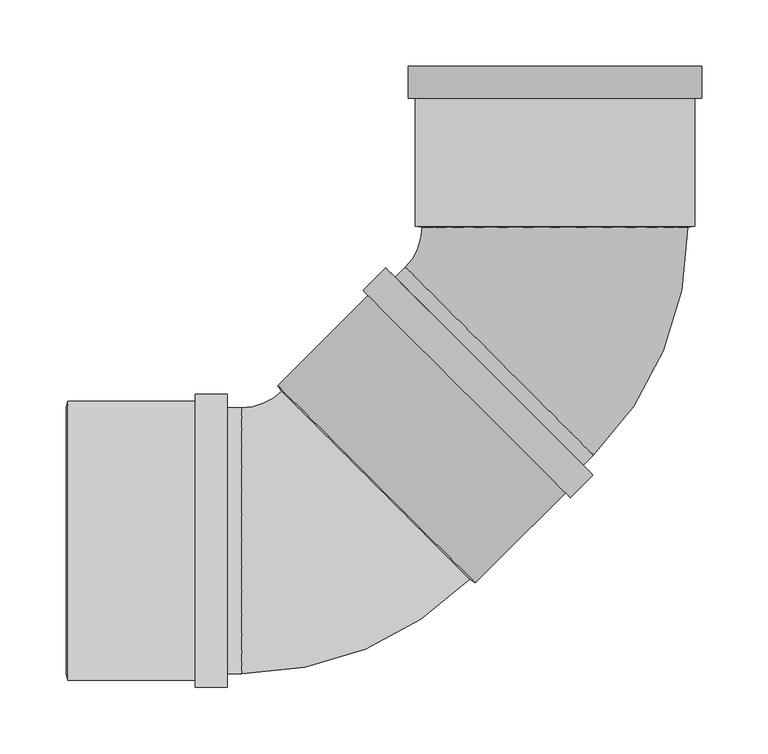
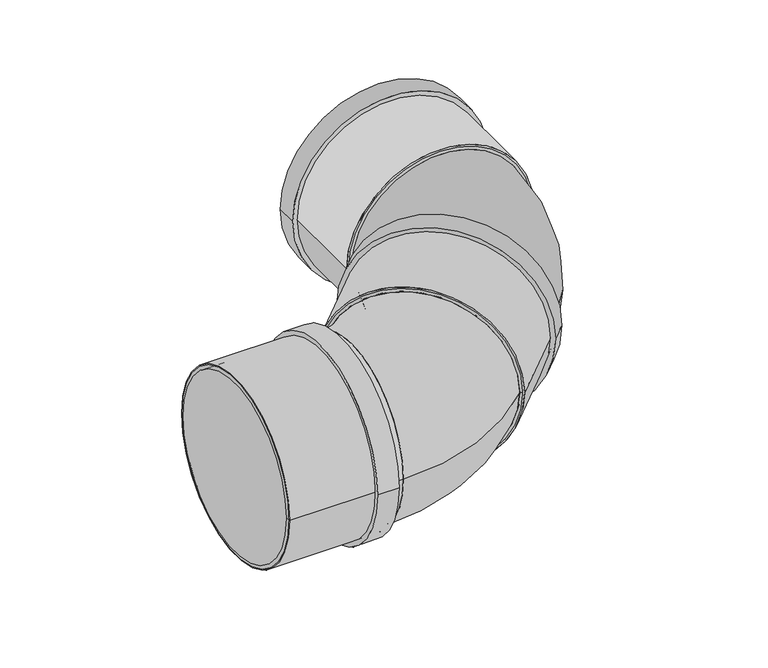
"""IFC4 building model written with IfcOpenShell, lengths in millimetres: pipe fitting geometry, Superdrain SK Bend_Composite 2x45 : Superdrain SK Bend_Composite 2x45."""

from ifc_helpers import new_model, si_unit, point, frame, origin, origin_2d, place, context, project, spatial, polyline, circle_curve, ellipse_curve, trimmed, segment, composite_curve, outline, extrude, source, transform, mapped, element, save
from ifc_brep_helpers import plane_surface, revolved_surface, advanced_brep


def pipe_fitting_3d344751(model_context):
    return source(origin(), model_context, "Body", "SolidModel", [
        advanced_brep(
        [(100.0, 235.6352739, 0.0), (-100.0, 235.6352739, 0.0), (28.991378, 64.2052957, 0.0), (-112.4299782, 205.626652, 0.0)],
        [
            (0, 1, circle_curve(frame((0.0, 235.6352739, 0.0), z_axis=(0.0, 1.0, 0.0), x_axis=(-1.0, 0.0, 0.0)), 100.0)),
            (1, 0, circle_curve(frame((0.0, 235.6352739, 0.0), z_axis=(0.0, 0.9999999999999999, 0.0), x_axis=(-0.9999999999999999, 0.0, 0.0)), 100.0)),
            (2, 3, circle_curve(frame((-41.7193001, 134.9159739, 0.0), z_axis=(-0.7071067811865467, -0.7071067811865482, 0.0), x_axis=(-0.7071067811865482, 0.7071067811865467, 0.0)), 100.0)),
            (3, 2, circle_curve(frame((-41.7193001, 134.9159739, 0.0), z_axis=(-0.7071067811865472, -0.7071067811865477, 0.0), x_axis=(-0.7071067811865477, 0.7071067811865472, 0.0)), 100.0)),
            (3, 1, circle_curve(frame((-142.4386002, 235.6352739, 0.0), z_axis=(0.0, 0.0, 1.0), x_axis=(0.7071067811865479, 0.707106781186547, 0.0)), 42.4386002)),
            (0, 2, circle_curve(frame((-142.4386002, 235.6352739, 0.0), z_axis=(0.0, 0.0, -1.0), x_axis=(0.7071067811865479, 0.707106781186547, 0.0)), 242.4386002)),
        ],
        [
            plane_surface(frame((0.0, 235.6352739, 0.0), z_axis=(0.0, 1.0, 0.0), x_axis=(0.0, 0.0, -1.0))),
            plane_surface(frame((-41.7193001, 134.9159739, 0.0), z_axis=(-0.7071067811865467, -0.7071067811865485, 0.0), x_axis=(0.0, 0.0, -1.0))),
            revolved_surface(trimmed(ellipse_curve(frame((-41.7193001, 336.354574, 0.0), z_axis=(0.707106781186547, -0.7071067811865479, 0.0), x_axis=(-0.7071067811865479, -0.707106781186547, 0.0)), 100.0, 100.0), [point((-112.4299782, 265.6438959, 0.0))], [point((28.991378, 407.0652521, 0.0))], True, "CARTESIAN"), (-142.4386002, 235.6352739, 0.0), (0.0, 0.0, 1.0)),
            revolved_surface(trimmed(ellipse_curve(frame((-41.7193001, 336.354574, 0.0), z_axis=(0.707106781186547, -0.7071067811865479, 0.0), x_axis=(-0.7071067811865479, -0.707106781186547, 0.0)), 100.0, 100.0), [point((28.991378, 407.0652521, 0.0))], [point((-112.4299782, 265.6438959, 0.0))], True, "CARTESIAN"), (-142.4386002, 235.6352739, 0.0), (0.0, 0.0, 1.0)),
        ],
        [
            (0, [[1, 2]]),
            (1, [[3, 4]]),
            (2, [[-4, 5, -1, 6]]),
            (3, [[-3, -6, -2, -5]]),
        ],
    ),
        extrude(outline(composite_curve([segment(trimmed(circle_curve(origin_2d(), 105.0), [point((0.0, 105.0))], [point((0.0, -105.0))], False, "CARTESIAN"), True, "CONTINUOUS"), segment(trimmed(circle_curve(origin_2d(), 105.0), [point((0.0, -105.0))], [point((0.0, 105.0))], False, "CARTESIAN"), True, "CONTINUOUS")], self_intersect=False), holes=[composite_curve([segment(trimmed(circle_curve(origin_2d(), 100.0), [point((0.0, 100.0))], [point((0.0, -100.0))], True, "CARTESIAN"), True, "CONTINUOUS"), segment(trimmed(circle_curve(origin_2d(), 100.0), [point((0.0, -100.0))], [point((0.0, 100.0))], True, "CARTESIAN"), True, "CONTINUOUS")], self_intersect=False)]), frame((0.0, 236.6352739, 0.0), z_axis=(0.0, 1.0, 0.0), x_axis=(0.0, 0.0, 1.0)), (0.0, 0.0, 1.0), 120.0),
        extrude(outline(composite_curve([segment(trimmed(circle_curve(origin_2d(), 110.25), [point((0.0, -110.25))], [point((0.0, 110.25))], False, "CARTESIAN"), True, "CONTINUOUS"), segment(trimmed(circle_curve(origin_2d(), 110.25), [point((0.0, 110.25))], [point((0.0, -110.25))], False, "CARTESIAN"), True, "CONTINUOUS")], self_intersect=False), holes=[composite_curve([segment(trimmed(circle_curve(origin_2d(), 100.0), [point((0.0, -100.0))], [point((0.0, 100.0))], True, "CARTESIAN"), True, "CONTINUOUS"), segment(trimmed(circle_curve(origin_2d(), 100.0), [point((0.0, 100.0))], [point((0.0, -100.0))], True, "CARTESIAN"), True, "CONTINUOUS")], self_intersect=False)]), frame((0.0, 332.6352739, 0.0), z_axis=(0.0, 1.0, 0.0), x_axis=(0.0, 0.0, 1.0)), (0.0, 0.0, 1.0), 24.0),
        advanced_brep(
        [(105.0, 236.6352739, 0.0), (-105.0, 236.6352739, 0.0), (100.0, 235.6352739, 0.0), (-100.0, 235.6352739, 0.0)],
        [
            (0, 1, circle_curve(frame((0.0, 236.6352739, 0.0), z_axis=(0.0, 1.0, 0.0), x_axis=(0.9999999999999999, 0.0, 0.0)), 105.0)),
            (1, 0, circle_curve(frame((0.0, 236.6352739, 0.0), z_axis=(0.0, 1.0, 0.0), x_axis=(-0.9999999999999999, 0.0, 0.0)), 105.0)),
            (2, 3, circle_curve(frame((0.0, 235.6352739, 0.0), z_axis=(0.0, -1.0, 0.0), x_axis=(-0.9999999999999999, 0.0, 0.0)), 100.0)),
            (3, 2, circle_curve(frame((0.0, 235.6352739, 0.0), z_axis=(0.0, -1.0, 0.0), x_axis=(0.9999999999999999, 0.0, 0.0)), 100.0)),
            (3, 1),
            (0, 2),
        ],
        [
            plane_surface(frame((0.0, 236.6352739, 0.0), z_axis=(0.0, 1.0, 0.0), x_axis=(0.0, 0.0, -1.0))),
            plane_surface(frame((0.0, 235.6352739, 0.0), z_axis=(0.0, -1.0, 0.0), x_axis=(0.0, 0.0, -1.0))),
            revolved_surface(polyline([(-100.0, 235.6352739, 0.0), (-105.0, 236.6352739, 0.0)]), (0.0, 215.6352739, 0.0), (0.0, 0.9999999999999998, 0.0)),
            revolved_surface(polyline([(100.0, 235.6352739, 0.0), (105.0, 236.6352739, 0.0)]), (0.0, 215.6352739, 0.0), (0.0, 0.9999999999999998, 0.0)),
        ],
        [
            (0, [[1, 2]]),
            (1, [[3, 4]]),
            (2, [[-4, 5, -1, 6]]),
            (3, [[-3, -6, -2, -5]]),
        ],
    ),
        extrude(outline(composite_curve([segment(trimmed(circle_curve(origin_2d(), 100.0), [point((0.0, -100.0))], [point((0.0, 100.0))], False, "CARTESIAN"), True, "CONTINUOUS"), segment(trimmed(circle_curve(origin_2d(), 100.0), [point((0.0, 100.0))], [point((0.0, -100.0))], False, "CARTESIAN"), True, "CONTINUOUS")], self_intersect=False)), frame((-134.2088671, 42.4264069, 0.0), z_axis=(0.707106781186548, 0.7071067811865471, 0.0), x_axis=(0.0, 0.0, -1.0)), (0.0, 0.0, 1.0), 130.8),
        extrude(outline(composite_curve([segment(trimmed(circle_curve(origin_2d(), 105.0), [point((105.0, 0.0))], [point((-105.0, 0.0))], False, "CARTESIAN"), True, "CONTINUOUS"), segment(trimmed(circle_curve(origin_2d(), 105.0), [point((-105.0, 0.0))], [point((105.0, 0.0))], False, "CARTESIAN"), True, "CONTINUOUS")], self_intersect=False), holes=[composite_curve([segment(trimmed(circle_curve(origin_2d(), 100.0), [point((100.0, 0.0))], [point((-100.0, 0.0))], True, "CARTESIAN"), True, "CONTINUOUS"), segment(trimmed(circle_curve(origin_2d(), 100.0), [point((-100.0, 0.0))], [point((100.0, 0.0))], True, "CARTESIAN"), True, "CONTINUOUS")], self_intersect=False)]), frame((-366.4352739, 0.0, 0.0), z_axis=(1.0, 0.0, 0.0), x_axis=(0.0, 1.0, 0.0)), (0.0, 0.0, 1.0), 120.0),
        extrude(outline(composite_curve([segment(trimmed(circle_curve(origin_2d(), 110.25), [point((110.25, 0.0))], [point((-110.25, 0.0))], False, "CARTESIAN"), True, "CONTINUOUS"), segment(trimmed(circle_curve(origin_2d(), 110.25), [point((-110.25, 0.0))], [point((110.25, 0.0))], False, "CARTESIAN"), True, "CONTINUOUS")], self_intersect=False), holes=[composite_curve([segment(trimmed(circle_curve(origin_2d(), 100.0), [point((100.0, 0.0))], [point((-100.0, 0.0))], True, "CARTESIAN"), True, "CONTINUOUS"), segment(trimmed(circle_curve(origin_2d(), 100.0), [point((-100.0, 0.0))], [point((100.0, 0.0))], True, "CARTESIAN"), True, "CONTINUOUS")], self_intersect=False)]), frame((-270.4352739, 0.0, 0.0), z_axis=(1.0, 0.0, 0.0), x_axis=(0.0, 1.0, 0.0)), (0.0, 0.0, 1.0), 24.0),
        advanced_brep(
        [(-367.4352739, 100.0, 0.0), (-367.4352739, -100.0, 0.0), (-366.4352739, 105.0, 0.0), (-366.4352739, -105.0, 0.0)],
        [
            (0, 1, circle_curve(frame((-367.4352739, 0.0, 0.0), z_axis=(-1.0, 0.0, 0.0), x_axis=(0.0, 1.0000000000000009, 0.0)), 100.0)),
            (1, 0, circle_curve(frame((-367.4352739, 0.0, 0.0), z_axis=(-1.0, 0.0, 0.0), x_axis=(0.0, -1.0000000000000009, 0.0)), 100.0)),
            (2, 3, circle_curve(frame((-366.4352739, 0.0, 0.0), z_axis=(1.0, 0.0, 0.0), x_axis=(0.0, -1.0000000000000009, 0.0)), 105.0)),
            (3, 2, circle_curve(frame((-366.4352739, 0.0, 0.0), z_axis=(1.0, 0.0, 0.0), x_axis=(0.0, 1.0000000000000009, 0.0)), 105.0)),
            (3, 1),
            (0, 2),
        ],
        [
            plane_surface(frame((-367.4352739, 0.0, 0.0), z_axis=(-1.0, 0.0, 0.0), x_axis=(0.0, 0.0, -1.0))),
            plane_surface(frame((-366.4352739, 0.0, 0.0), z_axis=(1.0, 0.0, 0.0), x_axis=(0.0, 0.0, -1.0))),
            revolved_surface(polyline([(-367.4352739, 99.99999999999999, 0.0), (-366.4352739, 105.0, 0.0)]), (-387.4352739, 0.0, 0.0), (1.0000000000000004, 0.0, 0.0)),
            revolved_surface(polyline([(-367.4352739, -99.99999999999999, 0.0), (-366.4352739, -105.0, 0.0)]), (-387.4352739, 0.0, 0.0), (1.0000000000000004, 0.0, 0.0)),
        ],
        [
            (0, [[1, 2]]),
            (1, [[3, 4]]),
            (2, [[-4, 5, -1, 6]]),
            (3, [[-3, -6, -2, -5]]),
        ],
    ),
        advanced_brep(
        [(-64.2052957, -28.991378, 0.0), (-205.626652, 112.4299782, 0.0), (-235.6352739, -100.0, 0.0), (-235.6352739, 100.0, 0.0)],
        [
            (0, 1, circle_curve(frame((-134.9159739, 41.7193001, 0.0), z_axis=(0.707106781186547, 0.707106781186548, 0.0), x_axis=(-0.707106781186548, 0.707106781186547, 0.0)), 100.0)),
            (1, 0, circle_curve(frame((-134.9159739, 41.7193001, 0.0), z_axis=(0.7071067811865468, 0.7071067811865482, 0.0), x_axis=(-0.7071067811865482, 0.7071067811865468, 0.0)), 100.0)),
            (2, 3, circle_curve(frame((-235.6352739, 0.0, 0.0), z_axis=(-1.0, 0.0, 0.0), x_axis=(0.0, 1.0, 0.0)), 100.0)),
            (3, 2, circle_curve(frame((-235.6352739, 0.0, 0.0), z_axis=(-1.0, 0.0, 0.0), x_axis=(0.0, 1.0, 0.0)), 100.0)),
            (3, 1, circle_curve(frame((-235.6352739, 142.4386002, 0.0), z_axis=(0.0, 0.0, 1.0), x_axis=(1.0, 0.0, 0.0)), 42.4386002)),
            (0, 2, circle_curve(frame((-235.6352739, 142.4386002, 0.0), z_axis=(0.0, 0.0, -1.0), x_axis=(1.0, 0.0, 0.0)), 242.4386002)),
        ],
        [
            plane_surface(frame((-134.9159739, 41.7193001, 0.0), z_axis=(0.707106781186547, 0.707106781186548, 0.0), x_axis=(0.0, 0.0, -1.0))),
            plane_surface(frame((-235.6352739, 0.0, 0.0), z_axis=(-1.0, 0.0, 0.0), x_axis=(0.0, 0.0, -1.0))),
            revolved_surface(trimmed(ellipse_curve(frame((-93.1966738, 142.4386002, 0.0), z_axis=(0.0, -1.0, 0.0), x_axis=(-1.0, 0.0, 0.0)), 100.0, 100.0), [point((-193.1966738, 142.4386002, 0.0))], [point((6.8033262, 142.4386002, 0.0))], True, "CARTESIAN"), (-235.6352739, 142.4386002, 0.0), (0.0, 0.0, 1.0)),
            revolved_surface(trimmed(ellipse_curve(frame((-93.1966738, 142.4386002, 0.0), z_axis=(0.0, -1.0, 0.0), x_axis=(-1.0, 0.0, 0.0)), 100.0, 100.0), [point((6.8033262, 142.4386002, 0.0))], [point((-193.1966738, 142.4386002, 0.0))], True, "CARTESIAN"), (-235.6352739, 142.4386002, 0.0), (0.0, 0.0, 1.0)),
        ],
        [
            (0, [[1, 2]]),
            (1, [[3, 4]]),
            (2, [[-4, 5, -1, 6]]),
            (3, [[-3, -6, -2, -5]]),
        ],
    ),
        extrude(outline(composite_curve([segment(trimmed(circle_curve(origin_2d(), 105.0), [point((0.0, 105.0000001))], [point((0.0, -105.0))], False, "CARTESIAN"), True, "CONTINUOUS"), segment(trimmed(circle_curve(origin_2d(), 105.0), [point((0.0, -105.0))], [point((0.0, 105.0000001))], False, "CARTESIAN"), True, "CONTINUOUS")], self_intersect=False), holes=[composite_curve([segment(trimmed(circle_curve(origin_2d(), 100.0), [point((0.0, 100.0))], [point((0.0, -100.0))], True, "CARTESIAN"), True, "CONTINUOUS"), segment(trimmed(circle_curve(origin_2d(), 100.0), [point((0.0, -100.0))], [point((0.0, 100.0))], True, "CARTESIAN"), True, "CONTINUOUS")], self_intersect=False)]), frame((-134.2088671, 42.4264069, 0.0), z_axis=(0.707106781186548, 0.707106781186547, 0.0), x_axis=(0.0, 0.0, 1.0)), (0.0, 0.0, 1.0), 120.0),
        extrude(outline(composite_curve([segment(trimmed(circle_curve(origin_2d(), 110.25), [point((0.0, -110.25))], [point((0.0, 110.2500001))], False, "CARTESIAN"), True, "CONTINUOUS"), segment(trimmed(circle_curve(origin_2d(), 110.25), [point((0.0, 110.2500001))], [point((0.0, -110.25))], False, "CARTESIAN"), True, "CONTINUOUS")], self_intersect=False), holes=[composite_curve([segment(trimmed(circle_curve(origin_2d(), 100.0), [point((0.0, -100.0))], [point((0.0, 100.0))], True, "CARTESIAN"), True, "CONTINUOUS"), segment(trimmed(circle_curve(origin_2d(), 100.0), [point((0.0, 100.0))], [point((0.0, -100.0))], True, "CARTESIAN"), True, "CONTINUOUS")], self_intersect=False)]), frame((-66.3266161, 110.3086579, 0.0), z_axis=(0.7071067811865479, 0.7071067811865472, 0.0), x_axis=(0.0, 0.0, 1.0)), (0.0, 0.0, 1.0), 24.0),
        advanced_brep(
        [(-59.962655, -31.8198052, 0.0), (-208.4550791, 116.6726189, 0.0), (-64.2052957, -28.991378, 0.0), (-205.626652, 112.4299782, 0.0)],
        [
            (0, 1, circle_curve(frame((-134.2088671, 42.4264069, 0.0), z_axis=(0.7071067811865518, 0.7071067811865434, 0.0), x_axis=(0.7071067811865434, -0.7071067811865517, 0.0)), 105.0)),
            (1, 0, circle_curve(frame((-134.2088671, 42.4264069, 0.0), z_axis=(0.7071067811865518, 0.7071067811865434, 0.0), x_axis=(-0.7071067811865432, 0.7071067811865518, 0.0)), 105.0)),
            (2, 3, circle_curve(frame((-134.9159739, 41.7193001, 0.0), z_axis=(-0.7071067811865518, -0.7071067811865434, 0.0), x_axis=(-0.7071067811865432, 0.7071067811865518, 0.0)), 100.0)),
            (3, 2, circle_curve(frame((-134.9159739, 41.7193001, 0.0), z_axis=(-0.7071067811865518, -0.7071067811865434, 0.0), x_axis=(0.7071067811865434, -0.7071067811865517, 0.0)), 100.0)),
            (3, 1),
            (0, 2),
        ],
        [
            plane_surface(frame((-134.2088671, 42.4264069, 0.0), z_axis=(0.7071067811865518, 0.7071067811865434, 0.0), x_axis=(0.0, 0.0, -1.0))),
            plane_surface(frame((-134.9159739, 41.7193001, 0.0), z_axis=(-0.7071067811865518, -0.7071067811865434, 0.0), x_axis=(0.0, 0.0, -1.0))),
            revolved_surface(polyline([(-205.62665189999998, 112.42997809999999, 0.0), (-208.45507910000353, 116.6726189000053, 0.0)]), (-149.0581095, 27.5771645, 0.0), (0.7071067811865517, 0.7071067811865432, 0.0)),
            revolved_surface(polyline([(-64.20529580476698, -28.99137799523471, 0.0), (-59.962655, -31.8198052, 0.0)]), (-149.0581095, 27.5771645, 0.0), (0.7071067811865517, 0.7071067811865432, 0.0)),
        ],
        [
            (0, [[1, 2]]),
            (1, [[3, 4]]),
            (2, [[-4, 5, -1, 6]]),
            (3, [[-3, -6, -2, -5]]),
        ],
    ),
        extrude(outline(composite_curve([segment(trimmed(circle_curve(origin_2d(), 100.0), [point((-100.0, 0.0))], [point((100.0, 0.0))], False, "CARTESIAN"), True, "CONTINUOUS"), segment(trimmed(circle_curve(origin_2d(), 100.0), [point((100.0, 0.0))], [point((-100.0, 0.0))], False, "CARTESIAN"), True, "CONTINUOUS")], self_intersect=False)), frame((-366.4352739, 0.0, 0.0), z_axis=(1.0, 0.0, 0.0), x_axis=(0.0, 1.0, 0.0)), (0.0, 0.0, 1.0), 130.8),
    ])


if __name__ == "__main__":
    model = new_model("IFC4")
    model_context = context("Model", 3, world=origin())
    ifc_project = project(units=[si_unit("LENGTHUNIT", "METRE", prefix="MILLI")], contexts=[model_context])
    site = spatial("IfcSite", under=ifc_project)
    building = spatial("IfcBuilding", under=site)
    placement = place(None, origin())
    pipe_fitting_shape = pipe_fitting_3d344751(model_context)
    element("IfcPipeFitting", 1, ObjectType="Superdrain SK Bend_Composite 2x45 : Superdrain SK Bend_Composite 2x45", at=placement, inside=building, context=model_context, shape_type="MappedRepresentation", body=[
        mapped(pipe_fitting_shape, transform((0.0, 0.0, 0.0), x_axis=(1.0, 0.0, 0.0), y_axis=(0.0, 1.0, 0.0), z_axis=(0.0, 0.0, 1.0))),
    ])
    save(model, "model.ifc")
